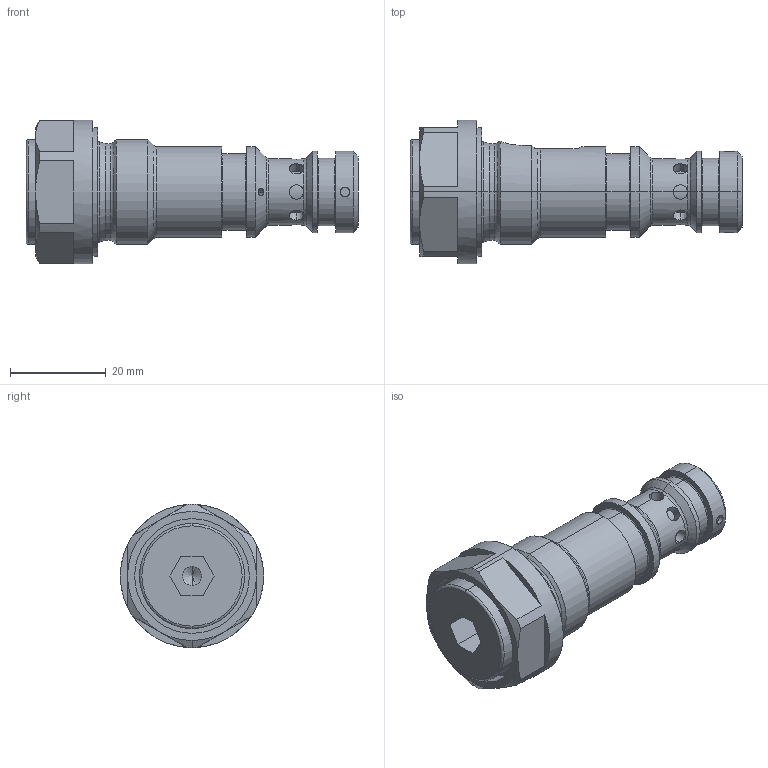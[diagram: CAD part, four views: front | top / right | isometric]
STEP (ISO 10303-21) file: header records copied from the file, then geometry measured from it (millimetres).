
FILE_DESCRIPTION (( 'STEP AP214' ), '1' );
FILE_NAME ('RNXPM2.STEP', '2018-11-15T13:35:36', ( '' ), ( '' ), 'SwSTEP 2.0', 'SolidWorks 2016', '' );
FILE_SCHEMA (( 'AUTOMOTIVE_DESIGN' ));
Length unit declared in the file: millimetre
Products named in the file (2): RNXPM2
Bounding box: 69.5 x 30 x 30 mm (x, y, z)
Volume: 21145.8 mm3; surface area: 7376.3 mm2
Topology: 2 solids, 2 shells, 179 faces, 396 edges, 238 vertices
Faces by surface type: cylinder 79, cone 41, plane 36, torus 23
Entity records: 7854 total; most frequent: CARTESIAN_POINT 2069, DIRECTION 838, ORIENTED_EDGE 780, EDGE_CURVE 390, AXIS2_PLACEMENT_3D 347, VERTEX_POINT 238, EDGE_LOOP 206, ADVANCED_FACE 179
